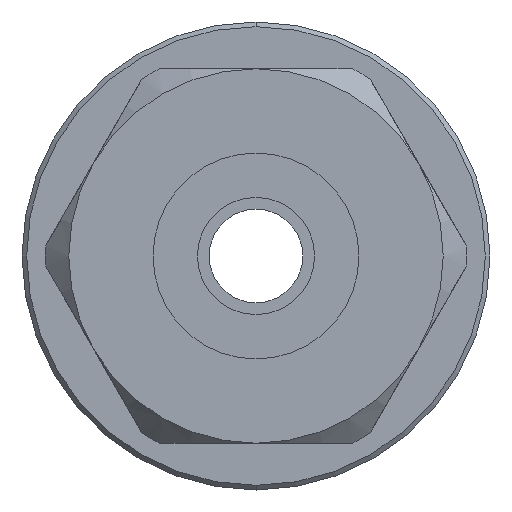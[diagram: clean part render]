
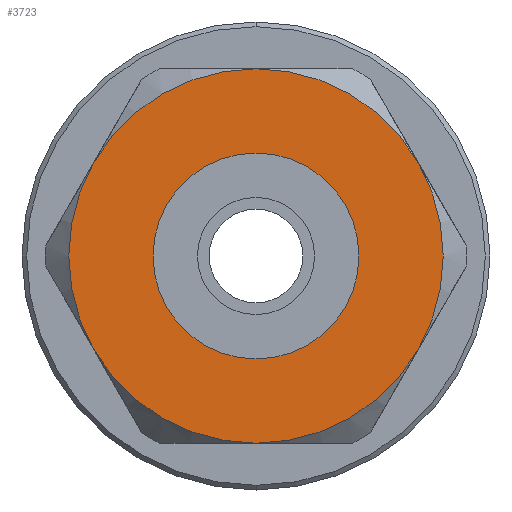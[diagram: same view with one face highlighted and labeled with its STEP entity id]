
A CAD part, front view. The second image highlights one B-rep face of the part: STEP entity #3723.
In plain terms, the highlighted planar face has unit normal (0, -1, 0).
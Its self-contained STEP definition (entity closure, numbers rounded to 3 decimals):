
#61 = ORIENTED_EDGE ( 'NONE', *, *, #3119, .T. ) ;
#112 = EDGE_CURVE ( 'NONE', #1292, #4614, #2131, .T. ) ;
#164 = CIRCLE ( 'NONE', #1558, 4.4 ) ;
#194 = DIRECTION ( 'NONE',  ( 0., -1., 0. ) ) ;
#323 = EDGE_CURVE ( 'NONE', #3325, #1057, #1714, .T. ) ;
#539 = ORIENTED_EDGE ( 'NONE', *, *, #823, .T. ) ;
#558 = VERTEX_POINT ( 'NONE', #6802 ) ;
#575 = ORIENTED_EDGE ( 'NONE', *, *, #5148, .T. ) ;
#823 = EDGE_CURVE ( 'NONE', #3066, #558, #164, .T. ) ;
#1057 = VERTEX_POINT ( 'NONE', #5197 ) ;
#1292 = VERTEX_POINT ( 'NONE', #6631 ) ;
#1448 = VERTEX_POINT ( 'NONE', #6581 ) ;
#1478 = DIRECTION ( 'NONE',  ( 0., 1., 0. ) ) ;
#1528 = CARTESIAN_POINT ( 'NONE',  ( -16.281, -45.626, 53. ) ) ;
#1558 = AXIS2_PLACEMENT_3D ( 'NONE', #3168, #3193, #3214 ) ;
#1610 = AXIS2_PLACEMENT_3D ( 'NONE', #5583, #1904, #5058 ) ;
#1714 = CIRCLE ( 'NONE', #1821, 8. ) ;
#1718 = DIRECTION ( 'NONE',  ( 0., 0., -1. ) ) ;
#1821 = AXIS2_PLACEMENT_3D ( 'NONE', #2166, #6478, #1718 ) ;
#1904 = DIRECTION ( 'NONE',  ( 0., -1., 0. ) ) ;
#1965 = AXIS2_PLACEMENT_3D ( 'NONE', #4635, #1478, #5160 ) ;
#2033 = EDGE_CURVE ( 'NONE', #1057, #5794, #3228, .T. ) ;
#2131 = CIRCLE ( 'NONE', #1610, 8. ) ;
#2166 = CARTESIAN_POINT ( 'NONE',  ( -9.353, -45.626, 49. ) ) ;
#2320 = FACE_BOUND ( 'NONE', #5107, .T. ) ;
#2445 = CARTESIAN_POINT ( 'NONE',  ( -9.353, -45.626, 49. ) ) ;
#2476 = EDGE_CURVE ( 'NONE', #4614, #3325, #5736, .T. ) ;
#2542 = CARTESIAN_POINT ( 'NONE',  ( -9.353, -45.626, 49. ) ) ;
#2754 = ORIENTED_EDGE ( 'NONE', *, *, #323, .T. ) ;
#2969 = DIRECTION ( 'NONE',  ( 0., -1., 0. ) ) ;
#2995 = DIRECTION ( 'NONE',  ( 0., 0., -1. ) ) ;
#3066 = VERTEX_POINT ( 'NONE', #3319 ) ;
#3087 = DIRECTION ( 'NONE',  ( 0., 0., -1. ) ) ;
#3119 = EDGE_CURVE ( 'NONE', #5794, #1448, #3765, .T. ) ;
#3149 = CARTESIAN_POINT ( 'NONE',  ( -9.353, -45.626, 57. ) ) ;
#3168 = CARTESIAN_POINT ( 'NONE',  ( -9.353, -45.626, 49. ) ) ;
#3193 = DIRECTION ( 'NONE',  ( 0., 1., 0. ) ) ;
#3214 = DIRECTION ( 'NONE',  ( 0., 0., 1. ) ) ;
#3228 = CIRCLE ( 'NONE', #3697, 8. ) ;
#3244 = CIRCLE ( 'NONE', #5865, 8. ) ;
#3307 = AXIS2_PLACEMENT_3D ( 'NONE', #2542, #6220, #3087 ) ;
#3319 = CARTESIAN_POINT ( 'NONE',  ( -9.353, -45.626, 53.4 ) ) ;
#3325 = VERTEX_POINT ( 'NONE', #1528 ) ;
#3411 = CARTESIAN_POINT ( 'NONE',  ( -9.353, -45.626, 49. ) ) ;
#3418 = ORIENTED_EDGE ( 'NONE', *, *, #2476, .T. ) ;
#3681 = CIRCLE ( 'NONE', #1965, 4.4 ) ;
#3697 = AXIS2_PLACEMENT_3D ( 'NONE', #5974, #4470, #5538 ) ;
#3723 = ADVANCED_FACE ( 'NONE', ( #2320, #3740 ), #6594, .T. ) ;
#3740 = FACE_OUTER_BOUND ( 'NONE', #6512, .T. ) ;
#3765 = CIRCLE ( 'NONE', #6469, 8. ) ;
#3939 = DIRECTION ( 'NONE',  ( 0., 0., -1. ) ) ;
#4127 = ORIENTED_EDGE ( 'NONE', *, *, #6725, .T. ) ;
#4470 = DIRECTION ( 'NONE',  ( 0., -1., 0. ) ) ;
#4614 = VERTEX_POINT ( 'NONE', #3149 ) ;
#4635 = CARTESIAN_POINT ( 'NONE',  ( -9.353, -45.626, 49. ) ) ;
#4742 = CARTESIAN_POINT ( 'NONE',  ( -9.353, -45.626, 41. ) ) ;
#5058 = DIRECTION ( 'NONE',  ( 0., 0., -1. ) ) ;
#5107 = EDGE_LOOP ( 'NONE', ( #539, #4127 ) ) ;
#5148 = EDGE_CURVE ( 'NONE', #1448, #1292, #3244, .T. ) ;
#5160 = DIRECTION ( 'NONE',  ( 0., 0., 1. ) ) ;
#5197 = CARTESIAN_POINT ( 'NONE',  ( -16.281, -45.626, 45. ) ) ;
#5265 = AXIS2_PLACEMENT_3D ( 'NONE', #6102, #2969, #6620 ) ;
#5512 = ORIENTED_EDGE ( 'NONE', *, *, #2033, .T. ) ;
#5538 = DIRECTION ( 'NONE',  ( 0., 0., -1. ) ) ;
#5583 = CARTESIAN_POINT ( 'NONE',  ( -9.353, -45.626, 49. ) ) ;
#5736 = CIRCLE ( 'NONE', #3307, 8. ) ;
#5794 = VERTEX_POINT ( 'NONE', #4742 ) ;
#5865 = AXIS2_PLACEMENT_3D ( 'NONE', #2445, #6132, #2995 ) ;
#5974 = CARTESIAN_POINT ( 'NONE',  ( -9.353, -45.626, 49. ) ) ;
#6102 = CARTESIAN_POINT ( 'NONE',  ( -1.257, -45.626, 40.904 ) ) ;
#6132 = DIRECTION ( 'NONE',  ( 0., -1., 0. ) ) ;
#6220 = DIRECTION ( 'NONE',  ( 0., -1., 0. ) ) ;
#6469 = AXIS2_PLACEMENT_3D ( 'NONE', #3411, #194, #3939 ) ;
#6478 = DIRECTION ( 'NONE',  ( 0., -1., 0. ) ) ;
#6512 = EDGE_LOOP ( 'NONE', ( #2754, #5512, #61, #575, #6667, #3418 ) ) ;
#6581 = CARTESIAN_POINT ( 'NONE',  ( -2.425, -45.626, 45. ) ) ;
#6594 = PLANE ( 'NONE',  #5265 ) ;
#6620 = DIRECTION ( 'NONE',  ( 0., 0., 1. ) ) ;
#6631 = CARTESIAN_POINT ( 'NONE',  ( -2.425, -45.626, 53. ) ) ;
#6667 = ORIENTED_EDGE ( 'NONE', *, *, #112, .T. ) ;
#6725 = EDGE_CURVE ( 'NONE', #558, #3066, #3681, .T. ) ;
#6802 = CARTESIAN_POINT ( 'NONE',  ( -9.353, -45.626, 44.6 ) ) ;
